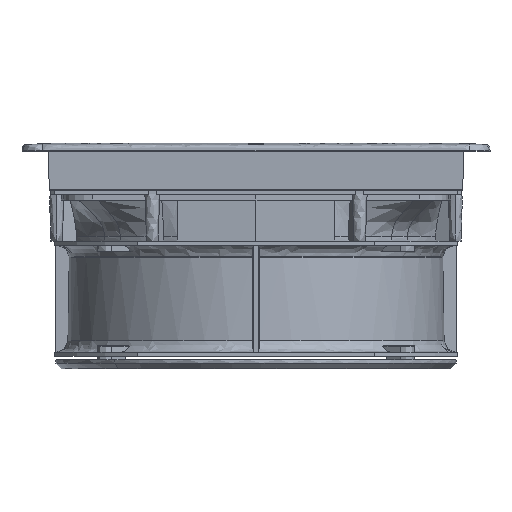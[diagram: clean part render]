
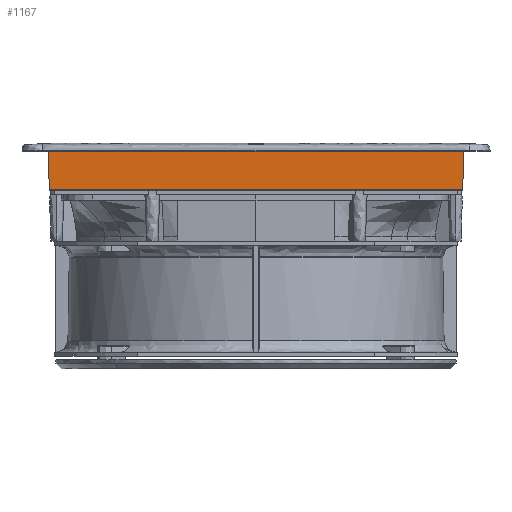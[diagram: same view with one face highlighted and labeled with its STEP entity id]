
A CAD part, front view. The second image highlights one B-rep face of the part: STEP entity #1167.
In plain terms, the highlighted planar face has unit normal (0, -0.999, -0.035).
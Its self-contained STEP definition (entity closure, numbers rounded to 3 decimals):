
#1167=ADVANCED_FACE('',(#2426),#19937,.T.);
#2426=FACE_OUTER_BOUND('',#3703,.T.);
#3703=EDGE_LOOP('',(#5584,#5585,#5586,#5587));
#5584=ORIENTED_EDGE('',*,*,#11707,.T.);
#5585=ORIENTED_EDGE('',*,*,#11694,.T.);
#5586=ORIENTED_EDGE('',*,*,#11708,.T.);
#5587=ORIENTED_EDGE('',*,*,#11706,.T.);
#11694=EDGE_CURVE('',#18080,#18082,#15248,.T.);
#11706=EDGE_CURVE('',#18090,#18087,#15260,.T.);
#11707=EDGE_CURVE('',#18087,#18080,#15261,.T.);
#11708=EDGE_CURVE('',#18082,#18090,#15262,.T.);
#15248=B_SPLINE_CURVE_WITH_KNOTS('',1,(#31152,#31153),.UNSPECIFIED.,.F.,
 .F.,(2,2),(-288.843,0.),.UNSPECIFIED.);
#15260=B_SPLINE_CURVE_WITH_KNOTS('',1,(#31176,#31177),.UNSPECIFIED.,.F.,
 .F.,(2,2),(-286.973,0.),.UNSPECIFIED.);
#15261=B_SPLINE_CURVE_WITH_KNOTS('',1,(#31178,#31179),.UNSPECIFIED.,.F.,
 .F.,(2,2),(0.,26.809),.UNSPECIFIED.);
#15262=B_SPLINE_CURVE_WITH_KNOTS('',1,(#31180,#31181),.UNSPECIFIED.,.F.,
 .F.,(2,2),(0.,26.809),.UNSPECIFIED.);
#18080=VERTEX_POINT('',#27567);
#18082=VERTEX_POINT('',#27569);
#18087=VERTEX_POINT('',#27574);
#18090=VERTEX_POINT('',#27577);
#19937=PLANE('',#21439);
#21439=AXIS2_PLACEMENT_3D('',#27305,#22484,$);
#22484=DIRECTION('',(0.,-0.999,-0.035));
#27305=CARTESIAN_POINT('',(-173.306,-144.515,2.677));
#27567=CARTESIAN_POINT('',(144.421,-144.421,-0.001));
#27569=CARTESIAN_POINT('',(-144.421,-144.421,-0.001));
#27574=CARTESIAN_POINT('',(143.486,-143.486,-26.777));
#27577=CARTESIAN_POINT('',(-143.486,-143.486,-26.777));
#31152=CARTESIAN_POINT('',(144.421,-144.421,-0.001));
#31153=CARTESIAN_POINT('',(-144.421,-144.421,-0.001));
#31176=CARTESIAN_POINT('',(-143.486,-143.486,-26.777));
#31177=CARTESIAN_POINT('',(143.486,-143.486,-26.777));
#31178=CARTESIAN_POINT('',(143.486,-143.486,-26.777));
#31179=CARTESIAN_POINT('',(144.421,-144.421,-0.001));
#31180=CARTESIAN_POINT('',(-144.421,-144.421,-0.001));
#31181=CARTESIAN_POINT('',(-143.486,-143.486,-26.777));
